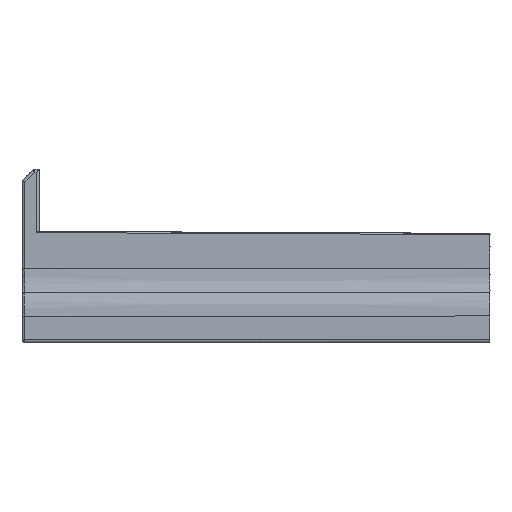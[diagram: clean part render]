
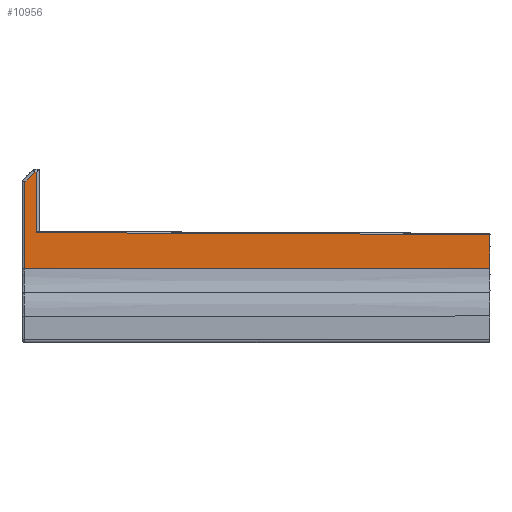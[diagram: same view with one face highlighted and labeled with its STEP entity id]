
A CAD part, left-side view. The second image highlights one B-rep face of the part: STEP entity #10956.
In plain terms, the highlighted planar face has unit normal (-1, 0.004, 0).
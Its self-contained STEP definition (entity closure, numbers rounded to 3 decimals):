
#264 = LINE ( 'NONE', #7256, #707 ) ;
#368 = CARTESIAN_POINT ( 'NONE',  ( -55.187, 30.184, 3.74 ) ) ;
#397 = EDGE_CURVE ( 'NONE', #1862, #8230, #10333, .T. ) ;
#406 = CARTESIAN_POINT ( 'NONE',  ( -55.262, 12.842, 3.762 ) ) ;
#593 = DIRECTION ( 'NONE',  ( -1., 0.004, 0. ) ) ;
#707 = VECTOR ( 'NONE', #9183, 1000. ) ;
#810 = CARTESIAN_POINT ( 'NONE',  ( -54.989, 75.502, 3.682 ) ) ;
#996 = EDGE_CURVE ( 'NONE', #5912, #11874, #2784, .T. ) ;
#1067 = ORIENTED_EDGE ( 'NONE', *, *, #7876, .T. ) ;
#1425 = DIRECTION ( 'NONE',  ( 0., 0., 1. ) ) ;
#1525 = CARTESIAN_POINT ( 'NONE',  ( -55., 73., 9.936 ) ) ;
#1573 = CARTESIAN_POINT ( 'NONE',  ( -54.996, 74., 20.33 ) ) ;
#1679 = VERTEX_POINT ( 'NONE', #10573 ) ;
#1862 = VERTEX_POINT ( 'NONE', #4030 ) ;
#2423 = LINE ( 'NONE', #9705, #12555 ) ;
#2492 = CARTESIAN_POINT ( 'NONE',  ( -55.113, 47.004, 9.834 ) ) ;
#2670 = EDGE_CURVE ( 'NONE', #8230, #5912, #2423, .T. ) ;
#2772 = ORIENTED_EDGE ( 'NONE', *, *, #4075, .T. ) ;
#2784 = B_SPLINE_CURVE_WITH_KNOTS ( 'NONE', 3,
 ( #7062, #6218, #11003, #12076, #368, #406, #7193 ),
 .UNSPECIFIED., .F., .F.,
 ( 4, 3, 4 ),
 ( 0., 0.028, 0.081 ),
 .UNSPECIFIED. ) ;
#2915 = DIRECTION ( 'NONE',  ( 0.003, 0.707, -0.707 ) ) ;
#3188 = ORIENTED_EDGE ( 'NONE', *, *, #996, .T. ) ;
#3399 = CARTESIAN_POINT ( 'NONE',  ( -55.212, 24.478, 9.738 ) ) ;
#3522 = CARTESIAN_POINT ( 'NONE',  ( -55.162, 35.951, 9.788 ) ) ;
#4030 = CARTESIAN_POINT ( 'NONE',  ( -54.997, 73.795, 20.33 ) ) ;
#4075 = EDGE_CURVE ( 'NONE', #1679, #1862, #5135, .T. ) ;
#4414 = CARTESIAN_POINT ( 'NONE',  ( -55.076, 55.669, 9.869 ) ) ;
#4456 = CARTESIAN_POINT ( 'NONE',  ( -55.198, 27.735, 9.753 ) ) ;
#4637 = ORIENTED_EDGE ( 'NONE', *, *, #8489, .T. ) ;
#4947 = CARTESIAN_POINT ( 'NONE',  ( -55.338, -4.5, 9.603 ) ) ;
#5135 = LINE ( 'NONE', #1573, #9770 ) ;
#5344 = CARTESIAN_POINT ( 'NONE',  ( -55.169, 34.251, 9.781 ) ) ;
#5390 = CARTESIAN_POINT ( 'NONE',  ( -55.038, 64.335, 9.903 ) ) ;
#5439 = CARTESIAN_POINT ( 'NONE',  ( -54.999, 73.335, 9.937 ) ) ;
#5470 = VERTEX_POINT ( 'NONE', #8122 ) ;
#5698 = AXIS2_PLACEMENT_3D ( 'NONE', #12296, #593, #6407 ) ;
#5776 = CARTESIAN_POINT ( 'NONE',  ( -54.988, 75.648, 18.478 ) ) ;
#5912 = VERTEX_POINT ( 'NONE', #810 ) ;
#6218 = CARTESIAN_POINT ( 'NONE',  ( -55.03, 66.177, 3.694 ) ) ;
#6350 = CARTESIAN_POINT ( 'NONE',  ( -55.165, 35.101, 9.784 ) ) ;
#6391 = CARTESIAN_POINT ( 'NONE',  ( -55.296, 5.159, 9.651 ) ) ;
#6407 = DIRECTION ( 'NONE',  ( -0.004, -1., 0. ) ) ;
#6995 = VERTEX_POINT ( 'NONE', #4947 ) ;
#7062 = CARTESIAN_POINT ( 'NONE',  ( -54.989, 75.502, 3.682 ) ) ;
#7193 = CARTESIAN_POINT ( 'NONE',  ( -55.338, -4.5, 3.784 ) ) ;
#7256 = CARTESIAN_POINT ( 'NONE',  ( -55.338, -4.5, 9. ) ) ;
#7275 = CARTESIAN_POINT ( 'NONE',  ( -54.998, 73.502, 9. ) ) ;
#7502 = ORIENTED_EDGE ( 'NONE', *, *, #397, .T. ) ;
#7876 = EDGE_CURVE ( 'NONE', #5470, #1679, #11116, .T. ) ;
#8122 = CARTESIAN_POINT ( 'NONE',  ( -54.998, 73.502, 9.938 ) ) ;
#8230 = VERTEX_POINT ( 'NONE', #8753 ) ;
#8489 = EDGE_CURVE ( 'NONE', #11874, #6995, #264, .T. ) ;
#8658 = VECTOR ( 'NONE', #2915, 1000. ) ;
#8753 = CARTESIAN_POINT ( 'NONE',  ( -54.989, 75.502, 18.623 ) ) ;
#9183 = DIRECTION ( 'NONE',  ( 0., 0., 1. ) ) ;
#9332 = CARTESIAN_POINT ( 'NONE',  ( -55.158, 36.802, 9.791 ) ) ;
#9341 = FACE_OUTER_BOUND ( 'NONE', #9991, .T. ) ;
#9375 = CARTESIAN_POINT ( 'NONE',  ( -54.999, 73.167, 9.937 ) ) ;
#9705 = CARTESIAN_POINT ( 'NONE',  ( -54.989, 75.502, 3.681 ) ) ;
#9770 = VECTOR ( 'NONE', #12393, 1000. ) ;
#9991 = EDGE_LOOP ( 'NONE', ( #10512, #1067, #2772, #7502, #12661, #3188, #4637 ) ) ;
#10299 = CARTESIAN_POINT ( 'NONE',  ( -55.128, 43.603, 9.82 ) ) ;
#10333 = LINE ( 'NONE', #5776, #8658 ) ;
#10482 = VECTOR ( 'NONE', #1425, 1000. ) ;
#10512 = ORIENTED_EDGE ( 'NONE', *, *, #11534, .T. ) ;
#10573 = CARTESIAN_POINT ( 'NONE',  ( -54.998, 73.502, 20.33 ) ) ;
#10956 = ADVANCED_FACE ( 'NONE', ( #9341 ), #11919, .T. ) ;
#11003 = CARTESIAN_POINT ( 'NONE',  ( -55.07, 56.852, 3.706 ) ) ;
#11116 = LINE ( 'NONE', #7275, #10482 ) ;
#11214 = CARTESIAN_POINT ( 'NONE',  ( -55.338, -4.5, 9.603 ) ) ;
#11293 = CARTESIAN_POINT ( 'NONE',  ( -55.254, 14.818, 9.696 ) ) ;
#11339 = CARTESIAN_POINT ( 'NONE',  ( -55.143, 40.202, 9.806 ) ) ;
#11534 = EDGE_CURVE ( 'NONE', #6995, #5470, #11940, .T. ) ;
#11627 = CARTESIAN_POINT ( 'NONE',  ( -55.338, -4.5, 3.784 ) ) ;
#11874 = VERTEX_POINT ( 'NONE', #11627 ) ;
#11919 = PLANE ( 'NONE',  #5698 ) ;
#11940 = B_SPLINE_CURVE_WITH_KNOTS ( 'NONE', 3,
 ( #11214, #6391, #11293, #3399, #4456, #12200, #5344, #6350, #3522, #9332, #11339, #10299, #2492, #4414, #5390, #1525, #9375, #5439, #12324 ),
 .UNSPECIFIED., .F., .F.,
 ( 4, 3, 3, 3, 3, 3, 4 ),
 ( 0., 0.029, 0.039, 0.041, 0.052, 0.078, 0.078 ),
 .UNSPECIFIED. ) ;
#12076 = CARTESIAN_POINT ( 'NONE',  ( -55.111, 47.526, 3.718 ) ) ;
#12200 = CARTESIAN_POINT ( 'NONE',  ( -55.183, 30.993, 9.767 ) ) ;
#12296 = CARTESIAN_POINT ( 'NONE',  ( -55., 73., 9. ) ) ;
#12324 = CARTESIAN_POINT ( 'NONE',  ( -54.998, 73.502, 9.938 ) ) ;
#12393 = DIRECTION ( 'NONE',  ( 0.004, 1., 0. ) ) ;
#12511 = DIRECTION ( 'NONE',  ( 0., 0., -1. ) ) ;
#12555 = VECTOR ( 'NONE', #12511, 1000. ) ;
#12661 = ORIENTED_EDGE ( 'NONE', *, *, #2670, .T. ) ;
